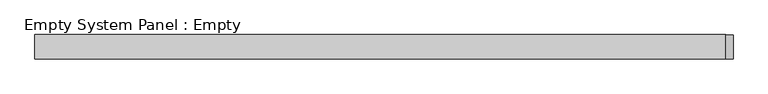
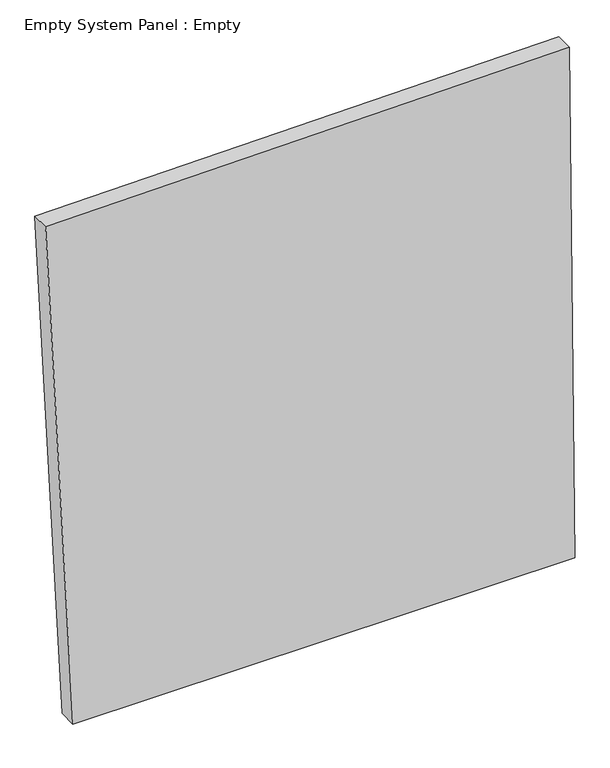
"""IFC4 building model written with IfcOpenShell, lengths in millimetres: plate geometry, Empty System Panel : Empty."""

from ifc_helpers import new_model, si_unit, frame, origin, place, context, project, spatial, polyline, outline, extrude, source, transform, mapped, element, save


def empty_system_panel_empty_958377f4(model_context):
    return source(origin(), model_context, "Body", "SweptSolid", [
        extrude(outline(polyline([(0.0, -1306.7348765), (0.0, 1457.5846945), (2978.9724137, 1427.1498842), (2944.4412079, -1457.5846945), (0.0, -1306.7348765)])), frame((0.0, -50.8, 0.0), z_axis=(0.0, 1.0, 0.0), x_axis=(0.0, 0.0, 1.0)), (0.0, 0.0, 1.0), 101.6),
    ])


if __name__ == "__main__":
    model = new_model("IFC4")
    model_context = context("Model", 3, world=origin())
    ifc_project = project(units=[si_unit("LENGTHUNIT", "METRE", prefix="MILLI")], contexts=[model_context])
    site = spatial("IfcSite", under=ifc_project)
    building = spatial("IfcBuilding", under=site)
    placement = place(None, origin())
    empty_system_panel_empty_shape = empty_system_panel_empty_958377f4(model_context)
    element("IfcPlate", 1, ObjectType="Empty System Panel : Empty", at=placement, inside=building, context=model_context, shape_type="MappedRepresentation", body=[
        mapped(empty_system_panel_empty_shape, transform((0.0, 0.0, 0.0), x_axis=(1.0, 0.0, 0.0), y_axis=(0.0, 1.0, 0.0), z_axis=(0.0, 0.0, 1.0))),
    ])
    save(model, "model.ifc")
